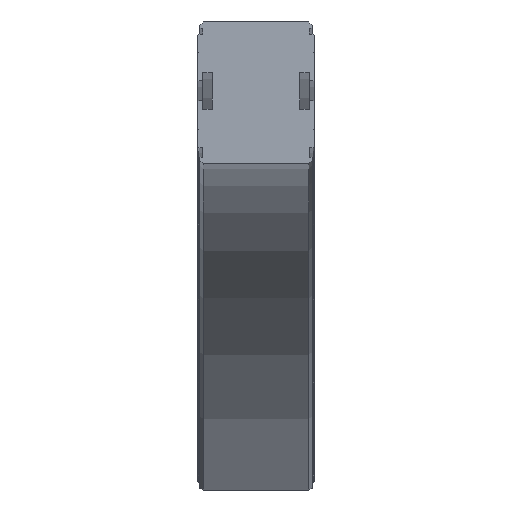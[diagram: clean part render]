
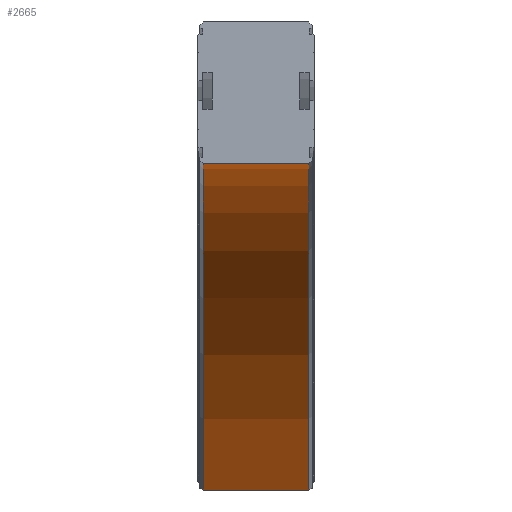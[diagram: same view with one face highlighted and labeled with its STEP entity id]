
A CAD part, left-side view. The second image highlights one B-rep face of the part: STEP entity #2665.
In plain terms, the highlighted cylindrical face has radius 360 mm (diameter 720 mm), a partial arc.
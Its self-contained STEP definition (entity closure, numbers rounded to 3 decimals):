
#2607=CARTESIAN_POINT('',(311.769,29.,-258.));
#2608=VERTEX_POINT('',#2607);
#2615=CARTESIAN_POINT('',(0.0,29.,-78.));
#2616=VERTEX_POINT('',#2615);
#2617=CARTESIAN_POINT('',(0.,29.,-438.0));
#2618=DIRECTION('',(0.0,1.0,0.0));
#2619=DIRECTION('',(0.0,0.0,1.0));
#2620=AXIS2_PLACEMENT_3D('',#2617,#2618,#2619);
#2621=CIRCLE('',#2620,360.);
#2622=EDGE_CURVE('',#2616,#2608,#2621,.T.);
#2634=CARTESIAN_POINT('',(0.,0.,-438.0));
#2635=DIRECTION('',(0.0,1.0,0.0));
#2636=DIRECTION('',(0.0,0.0,1.0));
#2637=AXIS2_PLACEMENT_3D('',#2634,#2635,#2636);
#2638=CYLINDRICAL_SURFACE('',#2637,360.);
#2639=CARTESIAN_POINT('',(311.769,-29.,-258.));
#2640=VERTEX_POINT('',#2639);
#2641=CARTESIAN_POINT('',(311.769,29.,-258.));
#2642=DIRECTION('',(0.0,-1.0,0.0));
#2643=VECTOR('',#2642,58.);
#2644=LINE('',#2641,#2643);
#2645=EDGE_CURVE('',#2608,#2640,#2644,.T.);
#2646=ORIENTED_EDGE('',*,*,#2645,.T.);
#2647=CARTESIAN_POINT('',(0.0,-29.,-78.));
#2648=VERTEX_POINT('',#2647);
#2649=CARTESIAN_POINT('',(0.,-29.,-438.0));
#2650=DIRECTION('',(0.0,1.0,0.0));
#2651=DIRECTION('',(0.0,0.0,1.0));
#2652=AXIS2_PLACEMENT_3D('',#2649,#2650,#2651);
#2653=CIRCLE('',#2652,360.);
#2654=EDGE_CURVE('',#2648,#2640,#2653,.T.);
#2655=ORIENTED_EDGE('',*,*,#2654,.F.);
#2656=CARTESIAN_POINT('',(0.0,-29.,-78.));
#2657=DIRECTION('',(0.0,1.0,0.0));
#2658=VECTOR('',#2657,58.);
#2659=LINE('',#2656,#2658);
#2660=EDGE_CURVE('',#2648,#2616,#2659,.T.);
#2661=ORIENTED_EDGE('',*,*,#2660,.T.);
#2662=ORIENTED_EDGE('',*,*,#2622,.T.);
#2663=EDGE_LOOP('',(#2646,#2655,#2661,#2662));
#2664=FACE_OUTER_BOUND('',#2663,.T.);
#2665=ADVANCED_FACE('',(#2664),#2638,.F.);
